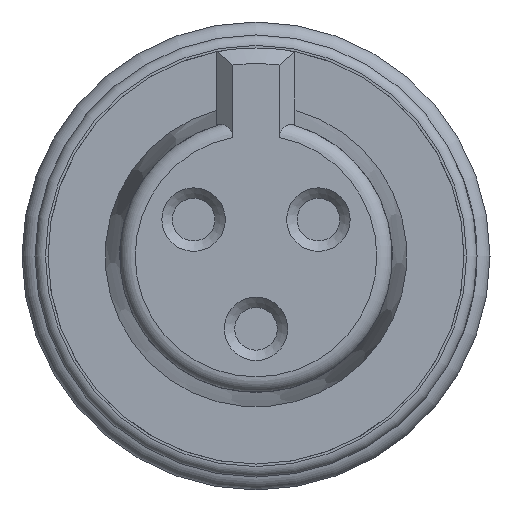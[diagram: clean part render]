
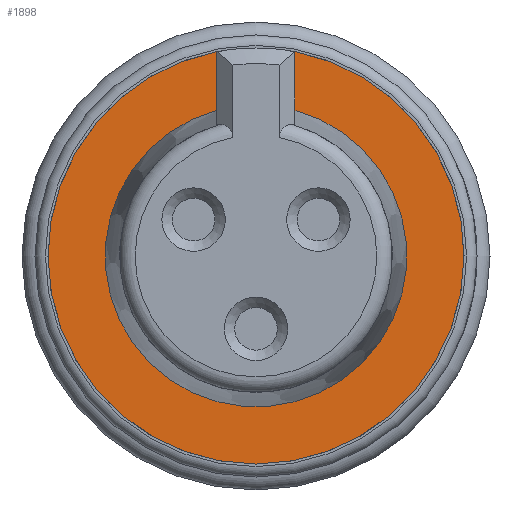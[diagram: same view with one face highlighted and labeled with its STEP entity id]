
A CAD part, left-side view. The second image highlights one B-rep face of the part: STEP entity #1898.
In plain terms, the highlighted planar face has unit normal (-1, 0, 0).
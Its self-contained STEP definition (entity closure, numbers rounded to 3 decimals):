
#200=LINE('',#4265,#339);
#201=LINE('',#4266,#340);
#339=VECTOR('',#2637,1.);
#340=VECTOR('',#2638,1.);
#501=FACE_OUTER_BOUND('',#621,.T.);
#621=EDGE_LOOP('',(#1682,#1683,#1684,#1685));
#720=CIRCLE('',#2108,4.);
#724=CIRCLE('',#2117,2.5);
#889=VERTEX_POINT('',#4201);
#893=VERTEX_POINT('',#4209);
#902=VERTEX_POINT('',#4259);
#903=VERTEX_POINT('',#4261);
#1155=EDGE_CURVE('',#889,#893,#720,.T.);
#1166=EDGE_CURVE('',#903,#902,#724,.T.);
#1168=EDGE_CURVE('',#889,#902,#200,.T.);
#1169=EDGE_CURVE('',#903,#893,#201,.T.);
#1682=ORIENTED_EDGE('',*,*,#1166,.T.);
#1683=ORIENTED_EDGE('',*,*,#1168,.F.);
#1684=ORIENTED_EDGE('',*,*,#1155,.T.);
#1685=ORIENTED_EDGE('',*,*,#1169,.F.);
#1795=PLANE('',#2118);
#1898=ADVANCED_FACE('',(#501),#1795,.F.);
#2108=AXIS2_PLACEMENT_3D('',#4211,#2613,#2614);
#2117=AXIS2_PLACEMENT_3D('',#4262,#2632,#2633);
#2118=AXIS2_PLACEMENT_3D('',#4264,#2635,#2636);
#2613=DIRECTION('center_axis',(-1.,0.,0.));
#2614=DIRECTION('ref_axis',(0.,0.,1.));
#2632=DIRECTION('center_axis',(1.,0.,0.));
#2633=DIRECTION('ref_axis',(0.,0.,1.));
#2635=DIRECTION('center_axis',(1.,0.,0.));
#2636=DIRECTION('ref_axis',(0.,1.,0.));
#2637=DIRECTION('',(0.,0.,-1.));
#2638=DIRECTION('',(0.,0.,1.));
#4201=CARTESIAN_POINT('',(-1.3,0.75,3.929));
#4209=CARTESIAN_POINT('',(-1.3,-0.75,3.929));
#4211=CARTESIAN_POINT('Origin',(-1.3,0.,0.));
#4259=CARTESIAN_POINT('',(-1.3,0.75,2.385));
#4261=CARTESIAN_POINT('',(-1.3,-0.75,2.385));
#4262=CARTESIAN_POINT('Origin',(-1.3,0.,0.));
#4264=CARTESIAN_POINT('Origin',(-1.3,0.,2.5));
#4265=CARTESIAN_POINT('',(-1.3,0.75,3.929));
#4266=CARTESIAN_POINT('',(-1.3,-0.75,2.385));
